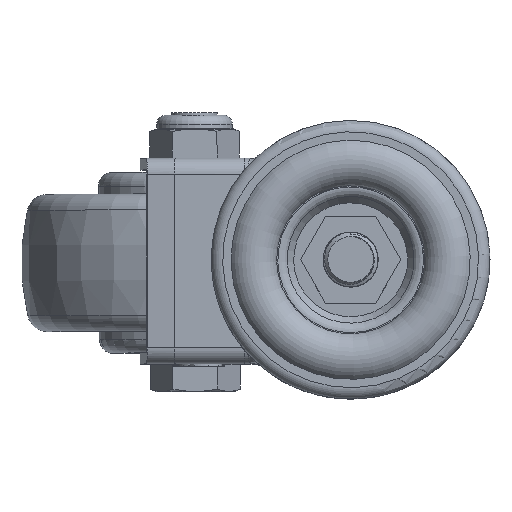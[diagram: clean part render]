
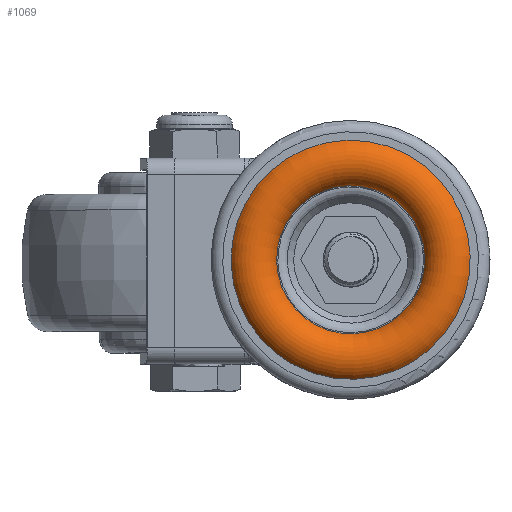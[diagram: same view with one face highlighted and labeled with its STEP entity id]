
A CAD part, top view. The second image highlights one B-rep face of the part: STEP entity #1069.
In plain terms, the highlighted toroidal (fillet/blend) face has major radius 21.5 mm and minor radius 5.6 mm.
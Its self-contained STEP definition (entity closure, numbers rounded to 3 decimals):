
#193=TOROIDAL_SURFACE('',#12351,21.5,5.6);
#1069=ADVANCED_FACE('',(#2809,#2810),#193,.T.);
#2809=FACE_BOUND('',#3195,.T.);
#2810=FACE_BOUND('',#3196,.T.);
#3195=EDGE_LOOP('',(#5638));
#3196=EDGE_LOOP('',(#5639));
#5638=ORIENTED_EDGE('',*,*,#10273,.T.);
#5639=ORIENTED_EDGE('',*,*,#10272,.F.);
#8967=VERTEX_POINT('',#20132);
#8968=VERTEX_POINT('',#20135);
#10272=EDGE_CURVE('',#8967,#8967,#11765,.T.);
#10273=EDGE_CURVE('',#8968,#8968,#11766,.T.);
#11765=CIRCLE('',#12348,26.164);
#11766=CIRCLE('',#12350,16.19);
#12348=AXIS2_PLACEMENT_3D('',#20131,#13834,#13835);
#12350=AXIS2_PLACEMENT_3D('',#20134,#13838,#13839);
#12351=AXIS2_PLACEMENT_3D('',#20136,#13840,#13841);
#13834=DIRECTION('',(0.,0.,-1.));
#13835=DIRECTION('',(0.929,0.37,0.));
#13838=DIRECTION('',(0.,0.,-1.));
#13839=DIRECTION('',(0.929,0.37,0.));
#13840=DIRECTION('',(0.,0.,-1.));
#13841=DIRECTION('',(-0.929,-0.37,0.));
#20131=CARTESIAN_POINT('',(0.,0.,-33.502));
#20132=CARTESIAN_POINT('',(24.303,9.692,-33.502));
#20134=CARTESIAN_POINT('',(0.,0.,-34.822));
#20135=CARTESIAN_POINT('',(15.039,5.997,-34.822));
#20136=CARTESIAN_POINT('',(0.,0.,-36.602));
